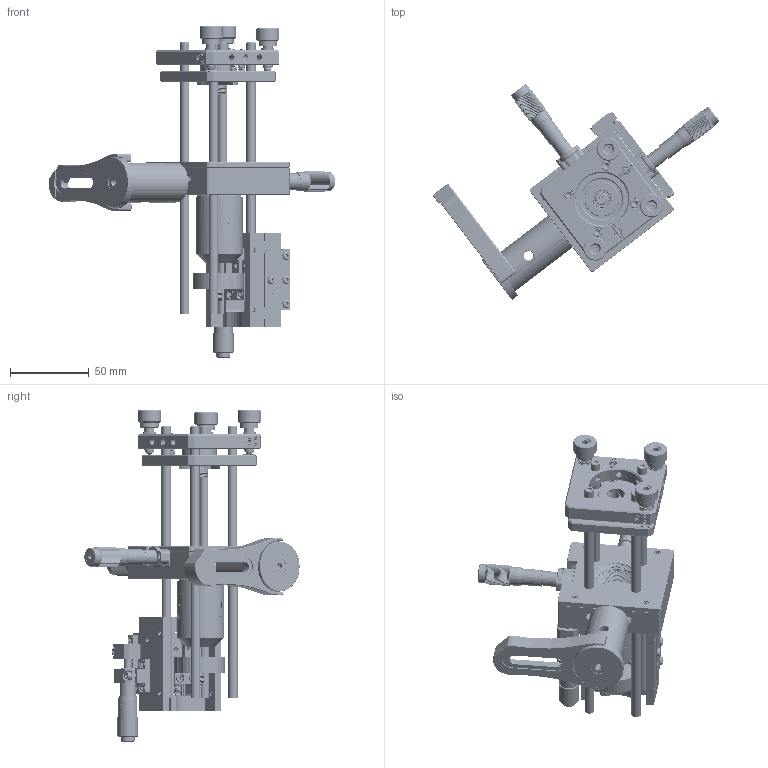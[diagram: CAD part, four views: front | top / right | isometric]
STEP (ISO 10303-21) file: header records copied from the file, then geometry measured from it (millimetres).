
FILE_DESCRIPTION((''),'2;1');
FILE_NAME('300_ASM','2026-06-06T14:45:42',('kk'),(''),'CREO PARAMETRIC BY PTC INC, 2022073','CREO PARAMETRIC BY PTC INC, 2022073','');
FILE_SCHEMA(('CONFIG_CONTROL_DESIGN'));
Length unit declared in the file: millimetre
Products named in the file (107): CXY1E_M_A1_1; CXY1E_M_A2_1; CXY1E_M_A3_1; CXY1E_M_A4_1; AXLE_1_6X6_1; SPRING_3X13_1; AXLE_1_6X8_1; SPACER_6X1_1; BALL_3_1; M2X6_HM_1; M2X5_HS_1; SPRING_3X18_1; AXLE_3X11_1; M2X4_HS_1; CXY1E_M_A7_1; SM13_A1_1; SM13_A2_1; SM13_A6_1; SM13_A3_1; SM13_A4_1; SM25_A5_1; SM13_ASM_1_ASM; CXY1E_M_ASM_2_ASM; CXY1E_M_ASM_ASM; PCM-S_76; CFP2-S; MOPL10X; SM13_1_5; CSD-XCT1_A1_7; CSD-XCT1_A2_8; SM13_2_5; M3X6_HM_5; CSD-XCT1_A3_7; CSD-XCT1_A4_7; M3X5_PM_5; AXLE_1_5X7_5_5; CSD-XCT1_A5_7; CSD-XCT1_A6_18; SM13_3_6; CSD-XCT1_A4_B_9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
Assembly tree (234 placements, depth 5):
  300_ASM
    CXY1E_M_ASM_ASM
      CXY1E_M_ASM_2_ASM
        CXY1E_M_A1_1
        CXY1E_M_A2_1
        CXY1E_M_A3_1
        CXY1E_M_A4_1
        AXLE_1_6X6_1  x6
        SPRING_3X13_1  x6
        AXLE_1_6X8_1  x20
        SPACER_6X1_1  x2
        BALL_3_1  x6
        M2X6_HM_1  x10
        M2X5_HS_1  x8
        SPRING_3X18_1  x4
        AXLE_3X11_1  x2
        M2X4_HS_1  x6
        CXY1E_M_A7_1  x2
        SM13_ASM_1_ASM  x2
          SM13_A1_1
          SM13_A2_1
          SM13_A6_1
          SM13_A3_1
          SM13_A4_1
          SM25_A5_1
    PCM-S_76  x8
    CFP2-S
    MOPL10X
    SN0004_ASM_ASM
      CSD-XCT1_ASM_36_ASM
        SM13_1_5
        CSD-XCT1_A1_7
        CSD-XCT1_A2_8
        SM13_2_5
        M3X6_HM_5  x18
        CSD-XCT1_A3_7
        CSD-XCT1_A4_7
        M3X5_PM_5  x4
        AXLE_1_5X7_5_5  x4
        CSD-XCT1_A5_7
        CSD-XCT1_A6_18
        SM13_3_6
        CSD-XCT1_A4_B_9
        CSD-XCT1_A8_16
        AXLE_1_5X5_5  x2
        CSD-XCT1_A9_8
        AXLE_4X6_5  x2
        CSK1_5
        CSD-XCT1_A10_7
        M3X5_HS_5  x7
        SPRING_STRETCH_4X21_3  x2
        AXLE_3X49_5_4
        AXLE_2X49_5_3  x4
        AXLE_2X20_5_4  x4
        BALL_S_20X2_7X0_25_6  x2
        BALL_1_8_4  x16
        M2X8_HS_1  x4
    SM1-SMA_ASM
      SM1-SMA_ASM_11_ASM
        SMA1-SMA_11
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Bounding box: 181.98 x 136.65 x 210.8 mm (x, y, z)
Volume: 233383.1 mm3; surface area: 174118.5 mm2
Topology: 224 solids, 235 shells, 11467 faces, 31891 edges, 20652 vertices
Faces by surface type: cylinder 4201, plane 3150, bspline 2746, cone 1157, sphere 108, torus 94, extrusion 11
Entity records: 614552 total; most frequent: CARTESIAN_POINT 416210, ORIENTED_EDGE 46366, DIRECTION 31660, EDGE_CURVE 23683, VERTEX_POINT 15652, AXIS2_PLACEMENT_3D 10926, VECTOR 9808, LINE 9798
